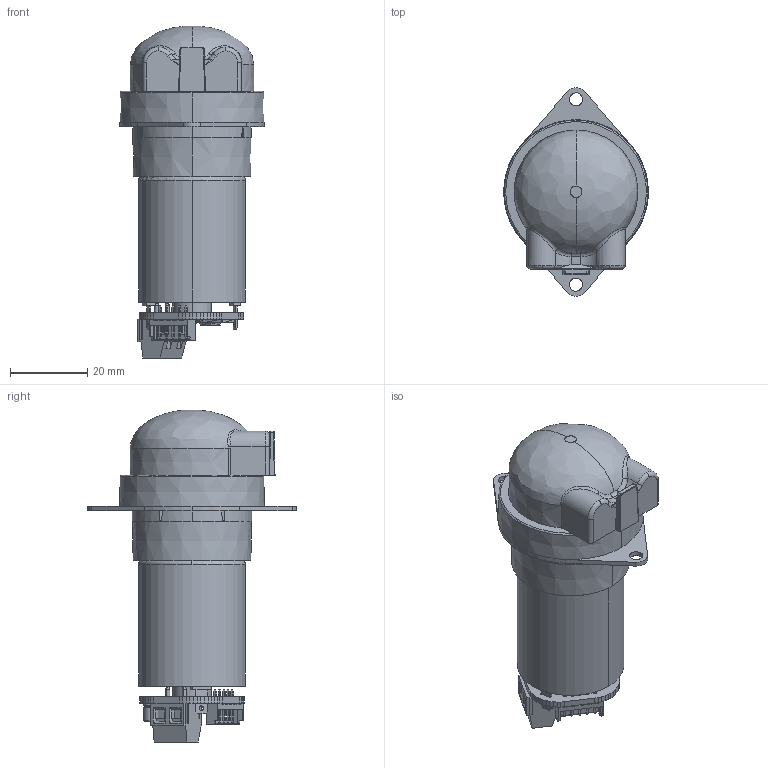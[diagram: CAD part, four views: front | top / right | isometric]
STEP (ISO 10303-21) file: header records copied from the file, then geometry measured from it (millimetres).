
FILE_DESCRIPTION (( 'STEP AP214' ), '1' );
FILE_NAME ('Assem11.STEP', '2020-09-21T22:36:06', ( '' ), ( '' ), 'SwSTEP 2.0', 'SolidWorks 2020', '' );
FILE_SCHEMA (( 'AUTOMOTIVE_DESIGN' ));
Length unit declared in the file: millimetre
Products named in the file (12): RGB-LED2.step; res_0402-0.step; qfn-28_6x6x0.65.step; soic-8ep_150mil.step; PMP_Motor; cappr-3.5_8h10.5.step; board11.step; Board_board11.step; Molex_2mm.step; Assem11; 2P_screw_terminal.step; res_0402.step
Assembly tree (19 placements, depth 3):
  Assem11
    PMP_Motor
    board11.step
      Board_board11.step
      2P_screw_terminal.step
      Molex_2mm.step
      cappr-3.5_8h10.5.step
      res_0402.step
      RGB-LED2.step
      res_0402-0.step  x9
      soic-8ep_150mil.step
      qfn-28_6x6x0.65.step
Bounding box: 37.49 x 54 x 86.05 mm (x, y, z)
Volume: 53826.7 mm3; surface area: 12738.3 mm2
Topology: 15 solids, 87 shells, 4544 faces, 7866 edges, 3493 vertices
Faces by surface type: plane 4231, cylinder 208, bspline 58, torus 31, cone 12, sphere 4
Entity records: 92316 total; most frequent: CARTESIAN_POINT 31502, ORIENTED_EDGE 12664, DIRECTION 9438, EDGE_CURVE 6372, B_SPLINE_CURVE_WITH_KNOTS 4288, AXIS2_PLACEMENT_3D 3856, EDGE_LOOP 3685, FACE_OUTER_BOUND 3552
